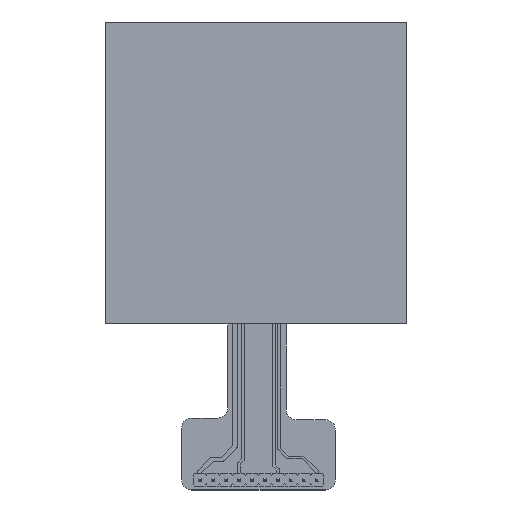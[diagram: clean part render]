
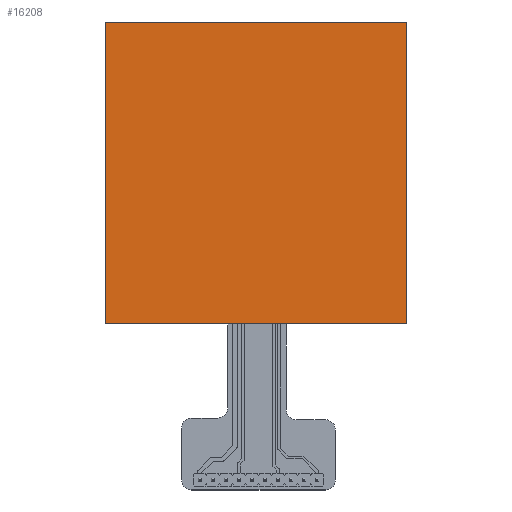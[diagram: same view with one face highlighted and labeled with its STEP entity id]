
A CAD part, top view. The second image highlights one B-rep face of the part: STEP entity #16208.
In plain terms, the highlighted planar face has unit normal (0, 0, 1).
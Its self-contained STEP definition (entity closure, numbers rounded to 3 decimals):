
#1044=PLANE('',#17970);
#1935=FACE_OUTER_BOUND('',#3064,.T.);
#3064=EDGE_LOOP('',(#14199,#14200,#14201,#14202));
#4303=LINE('',#26582,#5824);
#4304=LINE('',#26584,#5825);
#4305=LINE('',#26586,#5826);
#4306=LINE('',#26587,#5827);
#5824=VECTOR('',#22083,10.);
#5825=VECTOR('',#22084,10.);
#5826=VECTOR('',#22085,10.);
#5827=VECTOR('',#22086,10.);
#8160=VERTEX_POINT('',#26580);
#8161=VERTEX_POINT('',#26581);
#8162=VERTEX_POINT('',#26583);
#8163=VERTEX_POINT('',#26585);
#10223=EDGE_CURVE('',#8160,#8161,#4303,.T.);
#10224=EDGE_CURVE('',#8161,#8162,#4304,.T.);
#10225=EDGE_CURVE('',#8162,#8163,#4305,.T.);
#10226=EDGE_CURVE('',#8163,#8160,#4306,.T.);
#14199=ORIENTED_EDGE('',*,*,#10223,.T.);
#14200=ORIENTED_EDGE('',*,*,#10224,.T.);
#14201=ORIENTED_EDGE('',*,*,#10225,.T.);
#14202=ORIENTED_EDGE('',*,*,#10226,.T.);
#16208=ADVANCED_FACE('',(#1935),#1044,.T.);
#17970=AXIS2_PLACEMENT_3D('',#26579,#22081,#22082);
#22081=DIRECTION('center_axis',(0.,0.,1.));
#22082=DIRECTION('ref_axis',(1.,0.,0.));
#22083=DIRECTION('',(0.,1.,0.));
#22084=DIRECTION('',(-1.,0.,0.));
#22085=DIRECTION('',(0.,-1.,0.));
#22086=DIRECTION('',(1.,0.,0.));
#26579=CARTESIAN_POINT('Origin',(-0.486,-0.184,
0.1));
#26580=CARTESIAN_POINT('',(28.84,-29.51,0.1));
#26581=CARTESIAN_POINT('',(28.84,29.142,0.1));
#26582=CARTESIAN_POINT('',(28.84,-0.184,0.1));
#26583=CARTESIAN_POINT('',(-29.812,29.142,0.1));
#26584=CARTESIAN_POINT('',(-0.486,29.142,0.1));
#26585=CARTESIAN_POINT('',(-29.812,-29.51,0.1));
#26586=CARTESIAN_POINT('',(-29.812,-0.184,0.1));
#26587=CARTESIAN_POINT('',(-0.486,-29.51,0.1));
